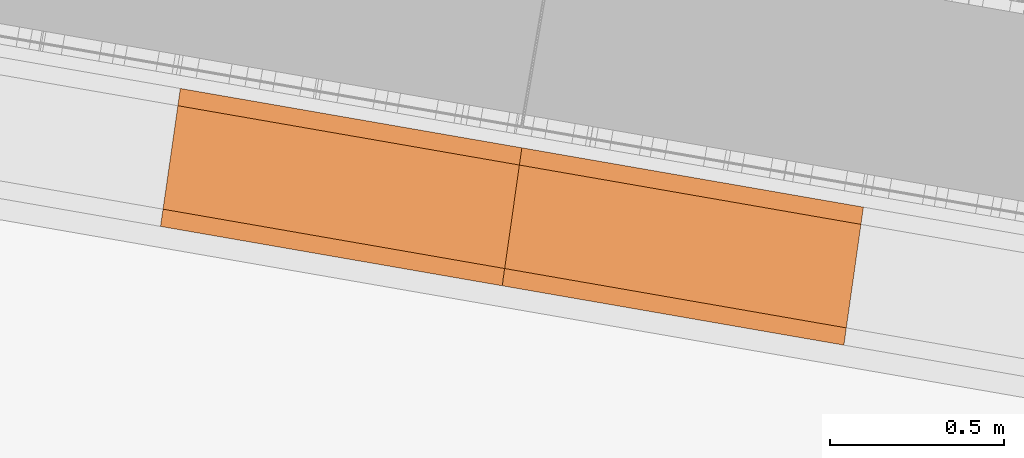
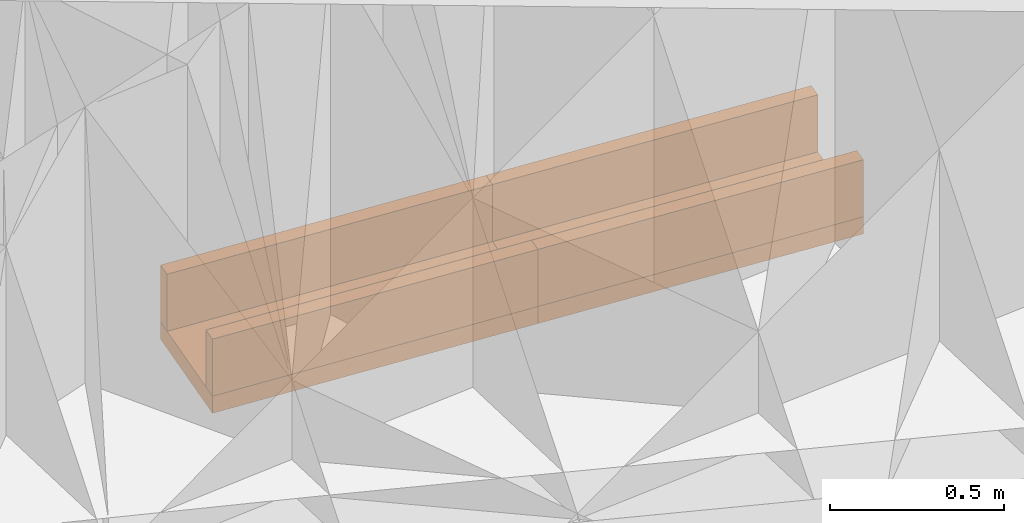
# Not in any storey, part 21 of 46: 6 proxies.
"""IFC4 model written with IfcOpenShell, lengths in metres."""

from ifc_helpers import new_model, si_unit, direction, frame, origin_with_axes, place, context, subcontext, project, spatial, polygons, material, element, save


model = new_model("IFC4")

# Units and contexts
model_context = context("Model", 3, precision=1e-05, world=origin_with_axes(), true_north=direction((0.0, 1.0)))
body_context = subcontext(model_context, "Body", "Model", "MODEL_VIEW")
ifc_project = project(units=[si_unit("VOLUMEUNIT", "CUBIC_METRE"), si_unit("LENGTHUNIT", "METRE"), si_unit("AREAUNIT", "SQUARE_METRE")], contexts=[model_context])

# Site
site_placement = place(None, origin_with_axes())
site = spatial("IfcSite", under=ifc_project, at=site_placement, Name="Lares · Rua das Mercês · artigo 4771")

# Proxies
ifc_material = material(Name="Caleiras · betão", Category="concrete")
proxy_1_placement = place(site_placement, frame((0.0, 0.0, 0.0), z_axis=(0.0, 0.0, 1.0), x_axis=(1.0, -1.03767253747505e-17, 0.0)))
element("IfcBuildingElementProxy", 1, at=proxy_1_placement, inside=site, material=ifc_material, Name="Acesso · canal lateral", ObjectType="Acesso · canal lateral", PredefinedType="USERDEFINED", context=body_context, shape_type="Tessellation", body=[
    polygons([(52.8205450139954, 10.9154358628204, 13.56), (52.8772222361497, 11.3114001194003, 13.56), (53.8576402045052, 11.1410759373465, 13.6344580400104), (53.8009629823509, 10.7451116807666, 13.6344580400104), (52.8205450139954, 10.9154358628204, 13.62), (52.8772222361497, 11.3114001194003, 13.62), (53.8576402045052, 11.1410759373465, 13.6944580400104), (53.8009629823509, 10.7451116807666, 13.6944580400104)], [[[4, 3, 2, 1]], [[5, 6, 7, 8]], [[1, 2, 6, 5]], [[2, 3, 7, 6]], [[3, 4, 8, 7]], [[4, 1, 5, 8]]]),
])
proxy_2_placement = place(site_placement, frame((0.0, 0.0, 0.0), z_axis=(0.0, 0.0, 1.0), x_axis=(1.0, -1.03767253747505e-17, 0.0)))
element("IfcBuildingElementProxy", 2, at=proxy_2_placement, inside=site, material=ifc_material, Name="Acesso · canal lateral", ObjectType="Acesso · canal lateral", PredefinedType="USERDEFINED", context=body_context, shape_type="Tessellation", body=[
    polygons([(52.8205450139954, 10.9154358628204, 13.62), (52.8276296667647, 10.9649313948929, 13.62), (53.8080476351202, 10.7946072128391, 13.6944580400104), (53.8009629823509, 10.7451116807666, 13.6944580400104), (52.8205450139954, 10.9154358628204, 13.82), (52.8276296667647, 10.9649313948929, 13.82), (53.8080476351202, 10.7946072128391, 13.8944580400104), (53.8009629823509, 10.7451116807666, 13.8944580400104)], [[[4, 3, 2, 1]], [[5, 6, 7, 8]], [[1, 2, 6, 5]], [[2, 3, 7, 6]], [[3, 4, 8, 7]], [[4, 1, 5, 8]]]),
])
proxy_3_placement = place(site_placement, frame((0.0, 0.0, 0.0), z_axis=(0.0, 0.0, 1.0), x_axis=(1.0, -1.03767253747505e-17, 0.0)))
element("IfcBuildingElementProxy", 3, at=proxy_3_placement, inside=site, material=ifc_material, Name="Acesso · canal lateral", ObjectType="Acesso · canal lateral", PredefinedType="USERDEFINED", context=body_context, shape_type="Tessellation", body=[
    polygons([(52.8701375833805, 11.2619045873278, 13.62), (52.8772222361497, 11.3114001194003, 13.62), (53.8576402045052, 11.1410759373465, 13.6944580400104), (53.8505555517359, 11.091580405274, 13.6944580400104), (52.8701375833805, 11.2619045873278, 13.82), (52.8772222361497, 11.3114001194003, 13.82), (53.8576402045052, 11.1410759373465, 13.8944580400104), (53.8505555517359, 11.091580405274, 13.8944580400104)], [[[4, 3, 2, 1]], [[5, 6, 7, 8]], [[1, 2, 6, 5]], [[2, 3, 7, 6]], [[3, 4, 8, 7]], [[4, 1, 5, 8]]]),
])
proxy_4_placement = place(site_placement, frame((0.0, 0.0, 0.0), z_axis=(0.0, 0.0, 1.0), x_axis=(1.0, -1.03767253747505e-17, 0.0)))
element("IfcBuildingElementProxy", 4, at=proxy_4_placement, inside=site, material=ifc_material, Name="Acesso · canal lateral", ObjectType="Acesso · canal lateral", PredefinedType="USERDEFINED", context=body_context, shape_type="Tessellation", body=[
    polygons([(53.801203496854, 10.745077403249, 13.6344580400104), (53.8573996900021, 11.141110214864, 13.6344580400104), (54.837809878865, 10.9707867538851, 13.7089160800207), (54.7816136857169, 10.5747539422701, 13.7089160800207), (53.801203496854, 10.745077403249, 13.6944580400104), (53.8573996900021, 11.141110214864, 13.6944580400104), (54.837809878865, 10.9707867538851, 13.7689160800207), (54.7816136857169, 10.5747539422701, 13.7689160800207)], [[[4, 3, 2, 1]], [[5, 6, 7, 8]], [[1, 2, 6, 5]], [[2, 3, 7, 6]], [[3, 4, 8, 7]], [[4, 1, 5, 8]]]),
])
proxy_5_placement = place(site_placement, frame((0.0, 0.0, 0.0), z_axis=(0.0, 0.0, 1.0), x_axis=(1.0, -1.03767253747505e-17, 0.0)))
element("IfcBuildingElementProxy", 5, at=proxy_5_placement, inside=site, material=ifc_material, Name="Acesso · canal lateral", ObjectType="Acesso · canal lateral", PredefinedType="USERDEFINED", context=body_context, shape_type="Tessellation", body=[
    polygons([(53.801203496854, 10.745077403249, 13.6944580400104), (53.8082280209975, 10.7945815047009, 13.6944580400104), (54.7886382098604, 10.624258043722, 13.7689160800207), (54.7816136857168, 10.5747539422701, 13.7689160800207), (53.801203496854, 10.745077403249, 13.8944580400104), (53.8082280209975, 10.7945815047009, 13.8944580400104), (54.7886382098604, 10.624258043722, 13.9689160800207), (54.7816136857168, 10.5747539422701, 13.9689160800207)], [[[4, 3, 2, 1]], [[5, 6, 7, 8]], [[1, 2, 6, 5]], [[2, 3, 7, 6]], [[3, 4, 8, 7]], [[4, 1, 5, 8]]]),
])
proxy_6_placement = place(site_placement, frame((0.0, 0.0, 0.0), z_axis=(0.0, 0.0, 1.0), x_axis=(1.0, -1.03767253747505e-17, 0.0)))
element("IfcBuildingElementProxy", 6, at=proxy_6_placement, inside=site, material=ifc_material, Name="Acesso · canal lateral", ObjectType="Acesso · canal lateral", PredefinedType="USERDEFINED", context=body_context, shape_type="Tessellation", body=[
    polygons([(53.8503751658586, 11.0916061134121, 13.6944580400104), (53.8573996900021, 11.141110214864, 13.6944580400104), (54.837809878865, 10.9707867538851, 13.7689160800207), (54.8307853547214, 10.9212826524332, 13.7689160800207), (53.8503751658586, 11.0916061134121, 13.8944580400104), (53.8573996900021, 11.141110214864, 13.8944580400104), (54.837809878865, 10.9707867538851, 13.9689160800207), (54.8307853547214, 10.9212826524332, 13.9689160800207)], [[[4, 3, 2, 1]], [[5, 6, 7, 8]], [[1, 2, 6, 5]], [[2, 3, 7, 6]], [[3, 4, 8, 7]], [[4, 1, 5, 8]]]),
])

save(model, "model.ifc")
